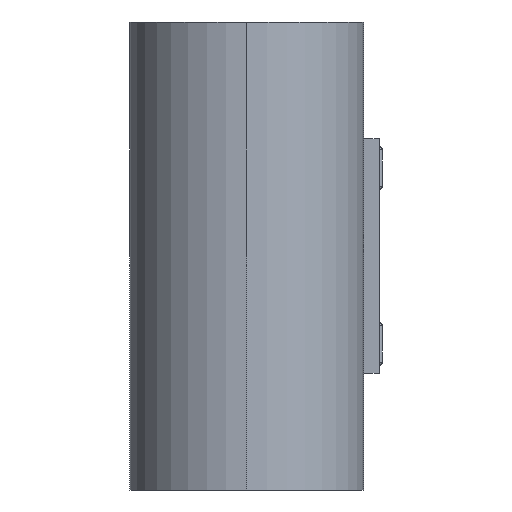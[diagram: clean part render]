
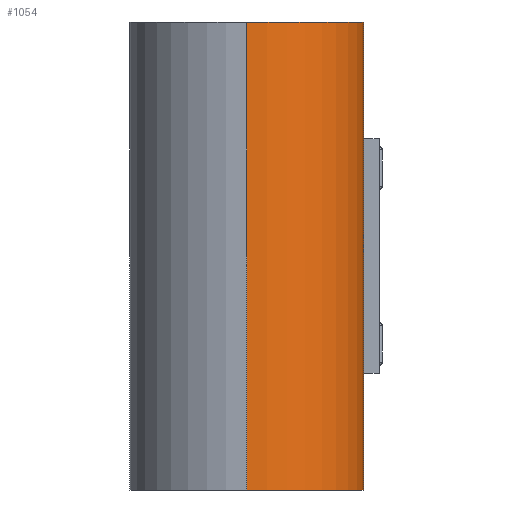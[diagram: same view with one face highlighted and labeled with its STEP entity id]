
A CAD part, left-side view. The second image highlights one B-rep face of the part: STEP entity #1054.
In plain terms, the highlighted cylindrical face has radius 150 mm (diameter 300 mm), a partial arc.
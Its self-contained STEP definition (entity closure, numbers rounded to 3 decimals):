
#276 = VERTEX_POINT ( 'NONE', #1565 ) ;
#319 = EDGE_LOOP ( 'NONE', ( #2814, #1520, #2756, #2798 ) ) ;
#638 = FACE_OUTER_BOUND ( 'NONE', #319, .T. ) ;
#752 = VERTEX_POINT ( 'NONE', #1313 ) ;
#807 = DIRECTION ( 'NONE',  ( 1., 0., 0. ) ) ;
#839 = EDGE_CURVE ( 'NONE', #2399, #752, #1506, .T. ) ;
#884 = LINE ( 'NONE', #3270, #3510 ) ;
#1054 = ADVANCED_FACE ( 'NONE', ( #638 ), #1872, .T. ) ;
#1173 = DIRECTION ( 'NONE',  ( 1., 0., 0. ) ) ;
#1306 = CARTESIAN_POINT ( 'NONE',  ( -700., 0., 300. ) ) ;
#1313 = CARTESIAN_POINT ( 'NONE',  ( -700., 0., -300. ) ) ;
#1506 = LINE ( 'NONE', #2371, #3623 ) ;
#1520 = ORIENTED_EDGE ( 'NONE', *, *, #839, .T. ) ;
#1565 = CARTESIAN_POINT ( 'NONE',  ( -550., -150., 300. ) ) ;
#1596 = VERTEX_POINT ( 'NONE', #2918 ) ;
#1799 = EDGE_CURVE ( 'NONE', #2399, #276, #2580, .T. ) ;
#1872 = CYLINDRICAL_SURFACE ( 'NONE', #3626, 150. ) ;
#2118 = DIRECTION ( 'NONE',  ( 0., 0., 1. ) ) ;
#2342 = EDGE_CURVE ( 'NONE', #276, #1596, #884, .T. ) ;
#2347 = AXIS2_PLACEMENT_3D ( 'NONE', #3676, #2118, #1173 ) ;
#2371 = CARTESIAN_POINT ( 'NONE',  ( -700., 0., 300. ) ) ;
#2399 = VERTEX_POINT ( 'NONE', #1306 ) ;
#2580 = CIRCLE ( 'NONE', #3107, 150. ) ;
#2616 = CARTESIAN_POINT ( 'NONE',  ( -550., 0., 300. ) ) ;
#2671 = DIRECTION ( 'NONE',  ( 0., 0., -1. ) ) ;
#2756 = ORIENTED_EDGE ( 'NONE', *, *, #3668, .T. ) ;
#2798 = ORIENTED_EDGE ( 'NONE', *, *, #2342, .F. ) ;
#2801 = CARTESIAN_POINT ( 'NONE',  ( -550., 0., 300. ) ) ;
#2814 = ORIENTED_EDGE ( 'NONE', *, *, #1799, .F. ) ;
#2918 = CARTESIAN_POINT ( 'NONE',  ( -550., -150., -300. ) ) ;
#3107 = AXIS2_PLACEMENT_3D ( 'NONE', #2616, #3203, #807 ) ;
#3109 = DIRECTION ( 'NONE',  ( 0., 0., -1. ) ) ;
#3203 = DIRECTION ( 'NONE',  ( 0., 0., 1. ) ) ;
#3270 = CARTESIAN_POINT ( 'NONE',  ( -550., -150., 300. ) ) ;
#3353 = DIRECTION ( 'NONE',  ( 0., 0., -1. ) ) ;
#3510 = VECTOR ( 'NONE', #2671, 1000. ) ;
#3576 = DIRECTION ( 'NONE',  ( -1., 0., 0. ) ) ;
#3623 = VECTOR ( 'NONE', #3353, 1000. ) ;
#3626 = AXIS2_PLACEMENT_3D ( 'NONE', #2801, #3109, #3576 ) ;
#3668 = EDGE_CURVE ( 'NONE', #752, #1596, #3903, .T. ) ;
#3676 = CARTESIAN_POINT ( 'NONE',  ( -550., 0., -300. ) ) ;
#3903 = CIRCLE ( 'NONE', #2347, 150. ) ;
